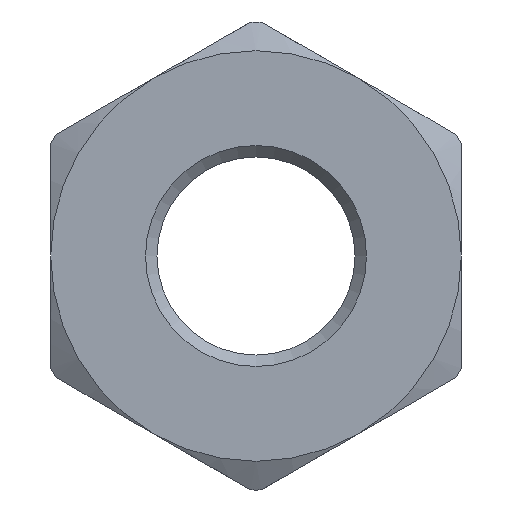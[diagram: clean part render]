
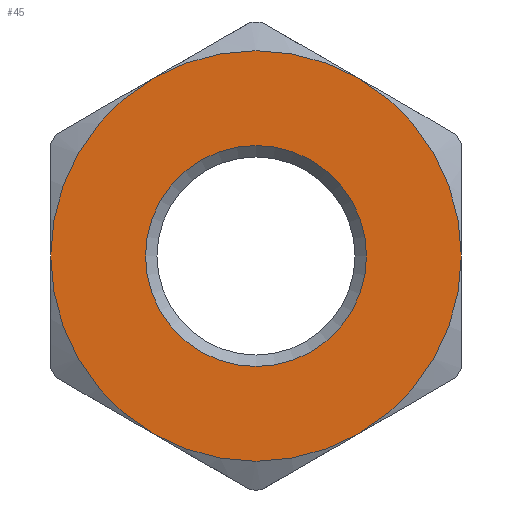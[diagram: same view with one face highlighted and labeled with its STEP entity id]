
A CAD part, front view. The second image highlights one B-rep face of the part: STEP entity #45.
In plain terms, the highlighted planar face has unit normal (0, -1, 0).
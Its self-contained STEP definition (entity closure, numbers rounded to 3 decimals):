
#45=ADVANCED_FACE('',(#77,#79),#81,.F.);
#77=FACE_BOUND('',#78,.T.);
#78=EDGE_LOOP('',(#254,#255,#256,#257));
#79=FACE_BOUND('',#80,.T.);
#80=EDGE_LOOP('',(#258));
#81=PLANE('',#82);
#82=AXIS2_PLACEMENT_3D('',#83,#84,#85);
#83=CARTESIAN_POINT('',(0.,0.,0.));
#84=DIRECTION('',(0.,1.,0.));
#85=DIRECTION('',(-1.,0.,0.));
#254=ORIENTED_EDGE('',*,*,#356,.T.);
#255=ORIENTED_EDGE('',*,*,#357,.T.);
#256=ORIENTED_EDGE('',*,*,#358,.T.);
#257=ORIENTED_EDGE('',*,*,#359,.T.);
#258=ORIENTED_EDGE('',*,*,#360,.T.);
#356=EDGE_CURVE('',#409,#410,#411,.F.);
#357=EDGE_CURVE('',#410,#412,#413,.F.);
#358=EDGE_CURVE('',#412,#414,#415,.F.);
#359=EDGE_CURVE('',#414,#409,#416,.F.);
#360=EDGE_CURVE('',#417,#417,#418,.T.);
#409=VERTEX_POINT('',#501);
#410=VERTEX_POINT('',#502);
#411=CIRCLE('',#503,25.);
#412=VERTEX_POINT('',#507);
#413=CIRCLE('',#508,25.);
#414=VERTEX_POINT('',#512);
#415=CIRCLE('',#513,25.);
#416=CIRCLE('',#517,25.);
#417=VERTEX_POINT('',#521);
#418=CIRCLE('',#522,13.459);
#501=CARTESIAN_POINT('',(25.,0.,0.));
#502=CARTESIAN_POINT('',(-12.5,0.,21.651));
#503=AXIS2_PLACEMENT_3D('',#504,#505,#506);
#504=CARTESIAN_POINT('',(0.,0.,0.));
#505=DIRECTION('',(0.,1.,0.));
#506=DIRECTION('',(-0.5,0.,0.866));
#507=CARTESIAN_POINT('',(-25.,0.,0.));
#508=AXIS2_PLACEMENT_3D('',#509,#510,#511);
#509=CARTESIAN_POINT('',(0.,0.,0.));
#510=DIRECTION('',(0.,1.,0.));
#511=DIRECTION('',(-1.,0.,0.));
#512=CARTESIAN_POINT('',(-12.5,0.,-21.651));
#513=AXIS2_PLACEMENT_3D('',#514,#515,#516);
#514=CARTESIAN_POINT('',(0.,0.,0.));
#515=DIRECTION('',(0.,1.,0.));
#516=DIRECTION('',(-0.5,0.,-0.866));
#517=AXIS2_PLACEMENT_3D('',#518,#519,#520);
#518=CARTESIAN_POINT('',(0.,0.,0.));
#519=DIRECTION('',(0.,1.,0.));
#520=DIRECTION('',(1.,0.,0.));
#521=CARTESIAN_POINT('',(-13.459,0.,0.));
#522=AXIS2_PLACEMENT_3D('',#523,#524,#525);
#523=CARTESIAN_POINT('',(0.,0.,0.));
#524=DIRECTION('',(0.,1.,0.));
#525=DIRECTION('',(-1.,0.,0.));
